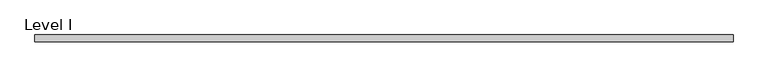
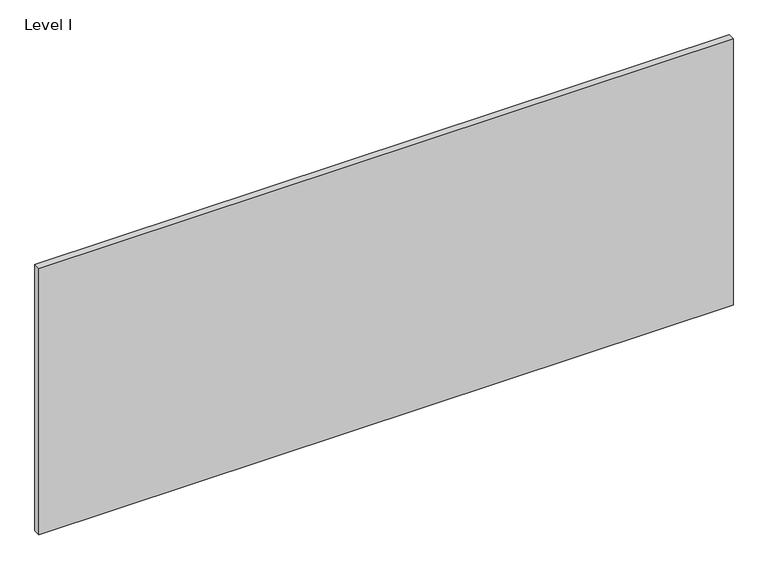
"""IFC4 building model written with IfcOpenShell, lengths in millimetres: proxy geometry, Panel-Fascia-Teknion-Altos-Landscape : Level I."""

from ifc_helpers import new_model, si_unit, frame, origin, place, context, project, spatial, polyline, outline, extrude, source, transform, mapped, element, save


def level_i_45b542d7(model_context):
    return source(origin(), model_context, "Body", "SweptSolid", [
        extrude(outline(polyline([(998.8407125, -9.525), (-998.8407125, -9.525), (-998.8407125, 9.525), (998.8407125, 9.525), (998.8407125, -9.525)])), frame((0.0, 0.0, 3.175), z_axis=(0.0, 0.0, 1.0), x_axis=(1.0, 0.0, 0.0)), (0.0, 0.0, 1.0), 810.768),
    ])


if __name__ == "__main__":
    model = new_model("IFC4")
    model_context = context("Model", 3, world=origin())
    ifc_project = project(units=[si_unit("LENGTHUNIT", "METRE", prefix="MILLI")], contexts=[model_context])
    site = spatial("IfcSite", under=ifc_project)
    building = spatial("IfcBuilding", under=site)
    placement = place(None, origin())
    level_i_shape = level_i_45b542d7(model_context)
    element("IfcBuildingElementProxy", 1, Name="Panel-Fascia-Teknion-Altos-Landscape : Level I", ObjectType="Panel-Fascia-Teknion-Altos-Landscape : Level I", at=placement, inside=building, context=model_context, shape_type="MappedRepresentation", body=[
        mapped(level_i_shape, transform((0.0, 0.0, 0.0), x_axis=(1.0, 0.0, 0.0), y_axis=(0.0, 1.0, 0.0), z_axis=(0.0, 0.0, 1.0))),
    ])
    save(model, "model.ifc")
